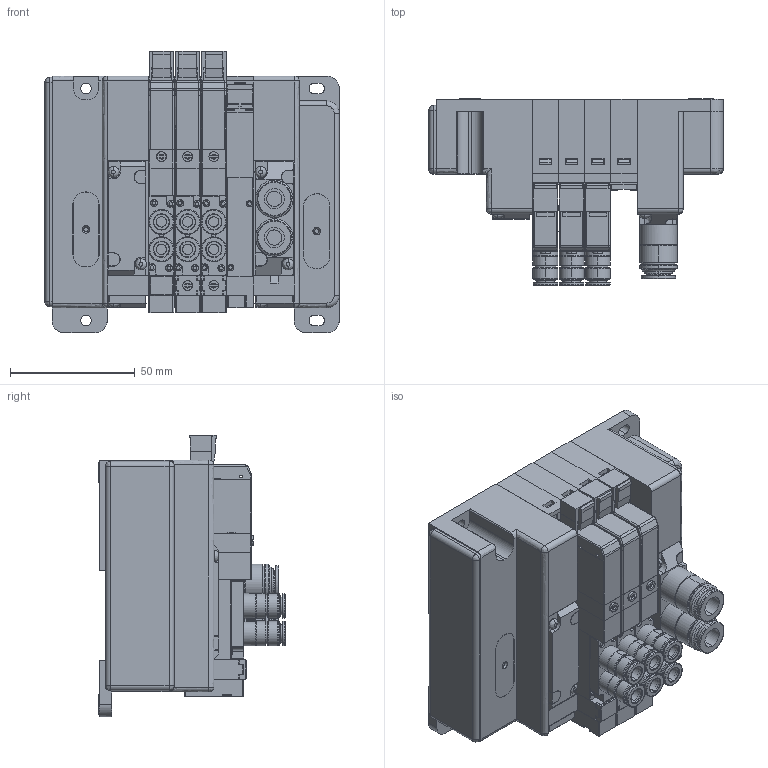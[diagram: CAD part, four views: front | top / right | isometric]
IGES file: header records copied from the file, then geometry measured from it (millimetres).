
Start section: ------------------------------------------------------------------------
Global section: file name: D:\ICADMX\tmp\trans3d_spg\CVICAD02.2536.F10M4XN-JR_14378.igs; native system: spGate; preprocessor: ver12.6.6; author: Unknown; organization: Unknown; date: 200901.145422; units: millimetre
Bounding box: 118 x 74.6 x 113 mm (x, y, z)
Volume: 459015.6 mm3; surface area: 140843.6 mm2
Topology: 39 solids, 39 shells, 3360 faces, 9031 edges, 6300 vertices
Faces by surface type: bspline 3360
